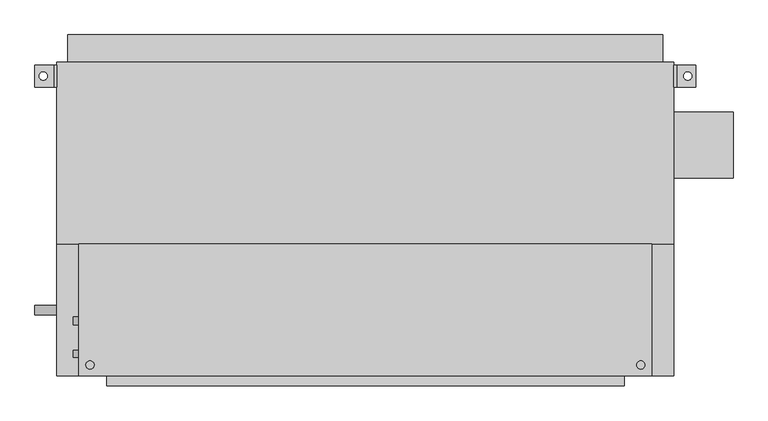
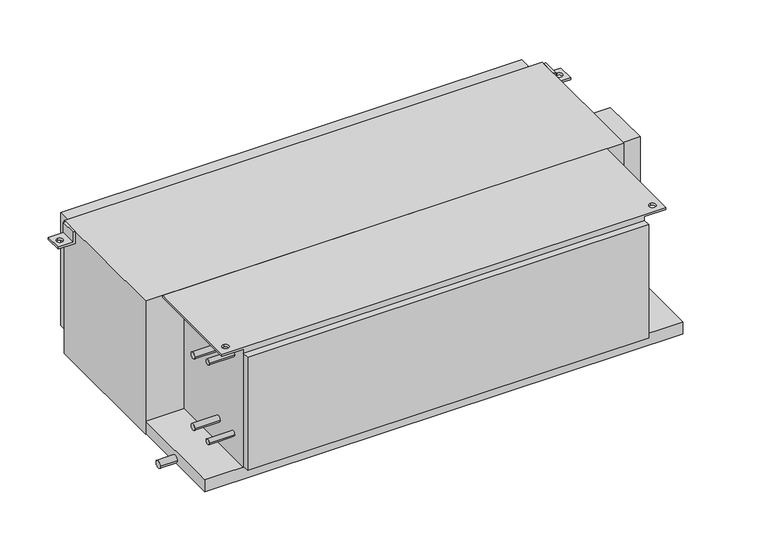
"""IFC4 building model written with IfcOpenShell, lengths in millimetres: proxy geometry, Concealed_High_Capacity_Horizontal_Fan_Coil_Unit_With_Plenum_-_42DCA_-_CARRIER_-_4-Pipe_LH_2022 : Size 20 - 277v/60Hz/1Ph - 6/2 Coil."""

from ifc_helpers import new_model, si_unit, point, frame, frame_2d, origin, place, context, project, spatial, polyline, circle_curve, trimmed, segment, composite_curve, outline, extrude, source, transform, mapped, element, save
from ifc_brep_helpers import plane_surface, revolved_surface, advanced_brep


def mechanical_equipment_17672f8f(model_context):
    return source(origin(), model_context, "Body", "SolidModel", [
        advanced_brep(
        [(-508.0, -85.725, 0.0), (-508.0, -390.525, 0.0), (812.8, -390.525, 0.0), (812.8, -85.725, 0.0), (-482.6, -374.65, 0.0), (-482.6, -355.6, 0.0), (787.4, -374.65, 0.0), (787.4, -355.6, 0.0), (749.3, -85.725, -377.825), (749.3, -390.525, -377.825), (-444.5, -390.525, -377.825), (-444.5, -85.725, -377.825), (-444.5, -85.725, -6.35), (-508.0, -85.725, -6.35), (812.8, -85.725, -6.35), (749.3, -85.725, -6.35), (-444.5, -390.525, -6.35), (749.3, -390.525, -6.35), (812.8, -390.525, -6.35), (-508.0, -390.525, -6.35), (-482.6, -355.6, -6.35), (-482.6, -374.65, -6.35), (787.4, -355.6, -6.35), (787.4, -374.65, -6.35)],
        [
            (0, 1),
            (1, 2),
            (2, 3),
            (3, 0),
            (4, 5, circle_curve(frame((-482.6, -365.125, 0.0), z_axis=(0.0, 0.0, -1.0), x_axis=(0.0, 1.0, 0.0)), 9.525)),
            (5, 4, circle_curve(frame((-482.6, -365.125, 0.0), z_axis=(0.0, 0.0, -1.0), x_axis=(0.0, 1.0, 0.0)), 9.525)),
            (6, 7, circle_curve(frame((787.4, -365.125, 0.0), z_axis=(0.0, 0.0, -1.0), x_axis=(0.0, 1.0, 0.0)), 9.525)),
            (7, 6, circle_curve(frame((787.4, -365.125, 0.0), z_axis=(0.0, 0.0, -1.0), x_axis=(0.0, 1.0, 0.0)), 9.525)),
            (8, 9),
            (9, 10),
            (10, 11),
            (11, 8),
            (11, 12),
            (12, 13),
            (13, 0),
            (3, 14),
            (14, 15),
            (15, 8),
            (10, 16),
            (16, 12),
            (9, 17),
            (17, 18),
            (18, 2),
            (1, 19),
            (19, 16),
            (15, 17),
            (19, 13),
            (20, 21, circle_curve(frame((-482.6, -365.125, -6.35), z_axis=(0.0, 0.0, 1.0), x_axis=(0.0, 1.0, 0.0)), 9.525)),
            (21, 20, circle_curve(frame((-482.6, -365.125, -6.35), z_axis=(0.0, 0.0, 1.0), x_axis=(0.0, 1.0, 0.0)), 9.525)),
            (14, 18),
            (22, 23, circle_curve(frame((787.4, -365.125, -6.35), z_axis=(0.0, 0.0, 1.0), x_axis=(0.0, 1.0, 0.0)), 9.525)),
            (23, 22, circle_curve(frame((787.4, -365.125, -6.35), z_axis=(0.0, 0.0, 1.0), x_axis=(0.0, 1.0, 0.0)), 9.525)),
            (4, 21),
            (20, 5),
            (6, 23),
            (22, 7),
        ],
        [
            plane_surface(frame((-444.5, -85.725, 0.0), z_axis=(0.0, 0.0, 1.0), x_axis=(-1.0, 0.0, 0.0))),
            plane_surface(frame((-444.5, -85.725, -377.825), z_axis=(0.0, 0.0, -1.0), x_axis=(1.0, 0.0, 0.0))),
            plane_surface(frame((749.3, -85.725, 0.0), z_axis=(0.0, 1.0, 0.0), x_axis=(0.0, 0.0, -1.0))),
            plane_surface(frame((-444.5, -85.725, 0.0), z_axis=(-1.0, 0.0, 0.0), x_axis=(0.0, 0.0, -1.0))),
            plane_surface(frame((-444.5, -390.525, 0.0), z_axis=(0.0, -1.0, 0.0), x_axis=(0.0, 0.0, -1.0))),
            plane_surface(frame((749.3, -390.525, 0.0), z_axis=(1.0, 0.0, 0.0), x_axis=(0.0, 0.0, -1.0))),
            plane_surface(frame((-508.0, -85.725, -6.35), z_axis=(0.0, 0.0, -1.0), x_axis=(0.0, 1.0, 0.0))),
            plane_surface(frame((-508.0, -85.725, 0.0), z_axis=(-1.0, 0.0, 0.0), x_axis=(0.0, 0.0, -1.0))),
            plane_surface(frame((812.8, -390.525, 0.0), z_axis=(1.0, 0.0, 0.0), x_axis=(0.0, 0.0, -1.0))),
            revolved_surface(polyline([(-482.6, -355.6, -6.35), (-482.6, -355.6, 0.0)]), (-482.6, -365.125, 0.0), (0.0, 0.0, -1.0)),
            revolved_surface(polyline([(787.4, -355.6, -6.35), (787.4, -355.6, 0.0)]), (787.4, -365.125, 0.0), (0.0, 0.0, -1.0)),
        ],
        [
            (0, [[1, 2, 3, 4], [5, 6], [7, 8]]),
            (1, [[9, 10, 11, 12]]),
            (2, [[-12, 13, 14, 15, -4, 16, 17, 18]]),
            (3, [[-11, 19, 20, -13]]),
            (4, [[-10, 21, 22, 23, -2, 24, 25, -19]]),
            (5, [[-9, -18, 26, -21]]),
            (6, [[-14, -20, -25, 27], [28, 29]]),
            (6, [[30, -22, -26, -17], [31, 32]]),
            (7, [[-27, -24, -1, -15]]),
            (8, [[-30, -16, -3, -23]]),
            (9, [[33, -28, 34, -5]]),
            (9, [[-33, -6, -34, -29]]),
            (10, [[35, -31, 36, -7]]),
            (10, [[-35, -8, -36, -32]]),
        ],
    ),
        advanced_brep(
        [(-558.8, 327.025, -38.1), (-609.6, 327.025, -38.1), (-609.6, 327.025, -31.75), (-565.15, 327.025, -31.75), (-565.15, 327.025, 0.0), (-558.8, 327.025, 0.0), (-558.8, 276.225, -38.1), (-558.8, 276.225, 0.0), (-565.15, 276.225, 0.0), (-565.15, 276.225, -31.75), (-609.6, 276.225, -31.75), (-609.6, 276.225, -38.1), (-590.55, 292.1, -38.1), (-590.55, 311.15, -38.1), (-590.55, 311.15, -31.75), (-590.55, 292.1, -31.75)],
        [
            (0, 1),
            (1, 2),
            (2, 3),
            (3, 4),
            (4, 5),
            (5, 0),
            (6, 7),
            (7, 8),
            (8, 9),
            (9, 10),
            (10, 11),
            (11, 6),
            (0, 6),
            (11, 1),
            (12, 13, circle_curve(frame((-590.55, 301.625, -38.1), z_axis=(0.0, 0.0, 1.0), x_axis=(0.0, -1.0, 0.0)), 9.525)),
            (13, 12, circle_curve(frame((-590.55, 301.625, -38.1), z_axis=(0.0, 0.0, 1.0), x_axis=(0.0, -1.0, 0.0)), 9.525)),
            (10, 2),
            (9, 3),
            (14, 15, circle_curve(frame((-590.55, 301.625, -31.75), z_axis=(0.0, 0.0, -1.0), x_axis=(0.0, -1.0, 0.0)), 9.525)),
            (15, 14, circle_curve(frame((-590.55, 301.625, -31.75), z_axis=(0.0, 0.0, -1.0), x_axis=(0.0, -1.0, 0.0)), 9.525)),
            (8, 4),
            (7, 5),
            (14, 13),
            (12, 15),
        ],
        [
            plane_surface(frame((-558.8, 327.025, -38.1), z_axis=(0.0, 1.0, 0.0), x_axis=(-1.0, 0.0, 0.0))),
            plane_surface(frame((-558.8, 276.225, -38.1), z_axis=(0.0, -1.0, 0.0), x_axis=(1.0, 0.0, 0.0))),
            plane_surface(frame((-558.8, 327.025, -38.1), z_axis=(0.0, 0.0, -1.0), x_axis=(0.0, -1.0, 0.0))),
            plane_surface(frame((-609.6, 327.025, -38.1), z_axis=(-1.0, 0.0, 0.0), x_axis=(0.0, -1.0, 0.0))),
            plane_surface(frame((-609.6, 327.025, -31.75), z_axis=(0.0, 0.0, 1.0), x_axis=(0.0, -1.0, 0.0))),
            plane_surface(frame((-565.15, 327.025, -31.75), z_axis=(-1.0, 0.0, 0.0), x_axis=(0.0, -1.0, 0.0))),
            plane_surface(frame((-565.15, 327.025, 0.0), z_axis=(0.0, 0.0, 1.0), x_axis=(0.0, -1.0, 0.0))),
            plane_surface(frame((-558.8, 327.025, 0.0), z_axis=(1.0, 0.0, 0.0), x_axis=(0.0, -1.0, 0.0))),
            revolved_surface(polyline([(-590.55, 292.1, -38.1), (-590.55, 292.1, -31.75)]), (-590.55, 301.625, -31.75), (0.0, 0.0, -1.0)),
        ],
        [
            (0, [[1, 2, 3, 4, 5, 6]]),
            (1, [[7, 8, 9, 10, 11, 12]]),
            (2, [[-1, 13, -12, 14], [15, 16]]),
            (3, [[-2, -14, -11, 17]]),
            (4, [[-3, -17, -10, 18], [19, 20]]),
            (5, [[-4, -18, -9, 21]]),
            (6, [[-5, -21, -8, 22]]),
            (7, [[-6, -22, -7, -13]]),
            (8, [[23, -15, 24, -19]]),
            (8, [[-23, -20, -24, -16]]),
        ],
    ),
        advanced_brep(
        [(863.6, 327.025, -38.1), (863.6, 327.025, 0.0), (869.95, 327.025, 0.0), (869.95, 327.025, -31.75), (914.4, 327.025, -31.75), (914.4, 327.025, -38.1), (863.6, 276.225, -38.1), (914.4, 276.225, -38.1), (914.4, 276.225, -31.75), (869.95, 276.225, -31.75), (869.95, 276.225, 0.0), (863.6, 276.225, 0.0), (895.35, 311.15, -31.75), (895.35, 292.1, -31.75), (895.35, 292.1, -38.1), (895.35, 311.15, -38.1)],
        [
            (0, 1),
            (1, 2),
            (2, 3),
            (3, 4),
            (4, 5),
            (5, 0),
            (6, 7),
            (7, 8),
            (8, 9),
            (9, 10),
            (10, 11),
            (11, 6),
            (0, 6),
            (11, 1),
            (10, 2),
            (9, 3),
            (8, 4),
            (12, 13, circle_curve(frame((895.35, 301.625, -31.75), z_axis=(0.0, 0.0, -1.0), x_axis=(0.0, -1.0, 0.0)), 9.525)),
            (13, 12, circle_curve(frame((895.35, 301.625, -31.75), z_axis=(0.0, 0.0, -1.0), x_axis=(0.0, -1.0, 0.0)), 9.525)),
            (7, 5),
            (14, 15, circle_curve(frame((895.35, 301.625, -38.1), z_axis=(0.0, 0.0, 1.0), x_axis=(0.0, -1.0, 0.0)), 9.525)),
            (15, 14, circle_curve(frame((895.35, 301.625, -38.1), z_axis=(0.0, 0.0, 1.0), x_axis=(0.0, -1.0, 0.0)), 9.525)),
            (12, 15),
            (14, 13),
        ],
        [
            plane_surface(frame((-558.8, 327.025, -38.1), z_axis=(0.0, 1.0, 0.0), x_axis=(-1.0, 0.0, 0.0))),
            plane_surface(frame((-558.8, 276.225, -38.1), z_axis=(0.0, -1.0, 0.0), x_axis=(1.0, 0.0, 0.0))),
            plane_surface(frame((863.6, 327.025, -38.1), z_axis=(-1.0, 0.0, 0.0), x_axis=(0.0, -1.0, 0.0))),
            plane_surface(frame((863.6, 327.025, 0.0), z_axis=(0.0, 0.0, 1.0), x_axis=(0.0, -1.0, 0.0))),
            plane_surface(frame((869.95, 327.025, 0.0), z_axis=(1.0, 0.0, 0.0), x_axis=(0.0, -1.0, 0.0))),
            plane_surface(frame((869.95, 327.025, -31.75), z_axis=(0.0, 0.0, 1.0), x_axis=(0.0, -1.0, 0.0))),
            plane_surface(frame((914.4, 327.025, -31.75), z_axis=(1.0, 0.0, 0.0), x_axis=(0.0, -1.0, 0.0))),
            plane_surface(frame((914.4, 327.025, -38.1), z_axis=(0.0, 0.0, -1.0), x_axis=(0.0, -1.0, 0.0))),
            revolved_surface(polyline([(895.35, 292.1, -38.1), (895.35, 292.1, -31.75)]), (895.35, 301.625, -31.75), (0.0, 0.0, -1.0)),
        ],
        [
            (0, [[1, 2, 3, 4, 5, 6]]),
            (1, [[7, 8, 9, 10, 11, 12]]),
            (2, [[-1, 13, -12, 14]]),
            (3, [[-2, -14, -11, 15]]),
            (4, [[-3, -15, -10, 16]]),
            (5, [[-4, -16, -9, 17], [18, 19]]),
            (6, [[-5, -17, -8, 20]]),
            (7, [[-6, -20, -7, -13], [21, 22]]),
            (8, [[23, -21, 24, -18]]),
            (8, [[-23, -19, -24, -22]]),
        ],
    ),
        extrude(outline(polyline([(-533.4, 396.875), (838.2, 396.875), (838.2, 333.375), (-533.4, 333.375), (-533.4, 396.875)])), frame((0.0, 0.0, -377.825), z_axis=(0.0, 0.0, 1.0), x_axis=(1.0, 0.0, 0.0)), (0.0, 0.0, 1.0), 355.6),
        extrude(outline(composite_curve([segment(trimmed(circle_curve(frame_2d((-263.525, -76.2)), 9.525), [point((-273.05, -76.2))], [point((-254.0, -76.2))], False, "CARTESIAN"), True, "CONTINUOUS"), segment(trimmed(circle_curve(frame_2d((-263.525, -76.2)), 9.525), [point((-254.0, -76.2))], [point((-273.05, -76.2))], False, "CARTESIAN"), True, "CONTINUOUS")], self_intersect=False)), frame((-520.7, 0.0, 0.0), z_axis=(1.0, 0.0, 0.0), x_axis=(0.0, 1.0, 0.0)), (0.0, 0.0, 1.0), 76.2),
        extrude(outline(composite_curve([segment(trimmed(circle_curve(frame_2d((-263.525, -301.625)), 9.525), [point((-273.05, -301.625))], [point((-254.0, -301.625))], False, "CARTESIAN"), True, "CONTINUOUS"), segment(trimmed(circle_curve(frame_2d((-263.525, -301.625)), 9.525), [point((-254.0, -301.625))], [point((-273.05, -301.625))], False, "CARTESIAN"), True, "CONTINUOUS")], self_intersect=False)), frame((-520.7, 0.0, 0.0), z_axis=(1.0, 0.0, 0.0), x_axis=(0.0, 1.0, 0.0)), (0.0, 0.0, 1.0), 76.2),
        extrude(outline(composite_curve([segment(trimmed(circle_curve(frame_2d((-339.725, -50.8)), 7.9375), [point((-347.6625, -50.8))], [point((-331.7875, -50.8))], False, "CARTESIAN"), True, "CONTINUOUS"), segment(trimmed(circle_curve(frame_2d((-339.725, -50.8)), 7.9375), [point((-331.7875, -50.8))], [point((-347.6625, -50.8))], False, "CARTESIAN"), True, "CONTINUOUS")], self_intersect=False)), frame((-520.7, 0.0, 0.0), z_axis=(1.0, 0.0, 0.0), x_axis=(0.0, 1.0, 0.0)), (0.0, 0.0, 1.0), 76.2),
        extrude(outline(composite_curve([segment(trimmed(circle_curve(frame_2d((-339.725, -301.625)), 7.9375), [point((-347.6625, -301.625))], [point((-331.7875, -301.625))], False, "CARTESIAN"), True, "CONTINUOUS"), segment(trimmed(circle_curve(frame_2d((-339.725, -301.625)), 7.9375), [point((-331.7875, -301.625))], [point((-347.6625, -301.625))], False, "CARTESIAN"), True, "CONTINUOUS")], self_intersect=False)), frame((-520.7, 0.0, 0.0), z_axis=(1.0, 0.0, 0.0), x_axis=(0.0, 1.0, 0.0)), (0.0, 0.0, 1.0), 76.2),
        extrude(outline(composite_curve([segment(trimmed(circle_curve(frame_2d((-238.125, -403.225)), 11.1125), [point((-249.2375, -403.225))], [point((-227.0125, -403.225))], False, "CARTESIAN"), True, "CONTINUOUS"), segment(trimmed(circle_curve(frame_2d((-238.125, -403.225)), 11.1125), [point((-227.0125, -403.225))], [point((-249.2375, -403.225))], False, "CARTESIAN"), True, "CONTINUOUS")], self_intersect=False)), frame((-609.6, 0.0, 0.0), z_axis=(1.0, 0.0, 0.0), x_axis=(0.0, 1.0, 0.0)), (0.0, 0.0, 1.0), 50.8),
        extrude(outline(polyline([(1000.125, 219.075), (1000.125, 66.675), (863.6, 66.675), (863.6, 219.075), (1000.125, 219.075)])), frame((0.0, 0.0, -273.05), z_axis=(0.0, 0.0, 1.0), x_axis=(1.0, 0.0, 0.0)), (0.0, 0.0, 1.0), 152.4),
        extrude(outline(polyline([(749.3, -412.75), (-444.5, -412.75), (-444.5, -390.525), (749.3, -390.525), (749.3, -412.75)])), frame((0.0, 0.0, -374.65), z_axis=(0.0, 0.0, 1.0), x_axis=(1.0, 0.0, 0.0)), (0.0, 0.0, 1.0), 355.6),
        extrude(outline(polyline([(863.6, -85.725), (-558.8, -85.725), (-558.8, 333.375), (863.6, 333.375), (863.6, -85.725)])), frame((0.0, 0.0, -419.1), z_axis=(0.0, 0.0, 1.0), x_axis=(1.0, 0.0, 0.0)), (0.0, 0.0, 1.0), 419.1),
        extrude(outline(polyline([(863.6, -85.725), (863.6, -390.525), (-558.8, -390.525), (-558.8, -85.725), (863.6, -85.725)])), frame((0.0, 0.0, -415.925), z_axis=(0.0, 0.0, 1.0), x_axis=(1.0, 0.0, 0.0)), (0.0, 0.0, 1.0), 38.1),
    ])


if __name__ == "__main__":
    model = new_model("IFC4")
    model_context = context("Model", 3, world=origin())
    ifc_project = project(units=[si_unit("LENGTHUNIT", "METRE", prefix="MILLI")], contexts=[model_context])
    site = spatial("IfcSite", under=ifc_project)
    building = spatial("IfcBuilding", under=site)
    placement = place(None, origin())
    mechanical_equipment_shape = mechanical_equipment_17672f8f(model_context)
    element("IfcBuildingElementProxy", 1, Name="Concealed_High_Capacity_Horizontal_Fan_Coil_Unit_With_Plenum_-_42DCA_-_CARRIER_-_4-Pipe_LH_2022 : Size 20 - 277v/60Hz/1Ph - 6/2 Coil", ObjectType="Concealed_High_Capacity_Horizontal_Fan_Coil_Unit_With_Plenum_-_42DCA_-_CARRIER_-_4-Pipe_LH_2022 : Size 20 - 277v/60Hz/1Ph - 6/2 Coil", at=placement, inside=building, context=model_context, shape_type="MappedRepresentation", body=[
        mapped(mechanical_equipment_shape, transform((0.0, 0.0, 0.0), x_axis=(1.0, 0.0, 0.0), y_axis=(0.0, 1.0, 0.0), z_axis=(0.0, 0.0, 1.0))),
    ])
    save(model, "model.ifc")
